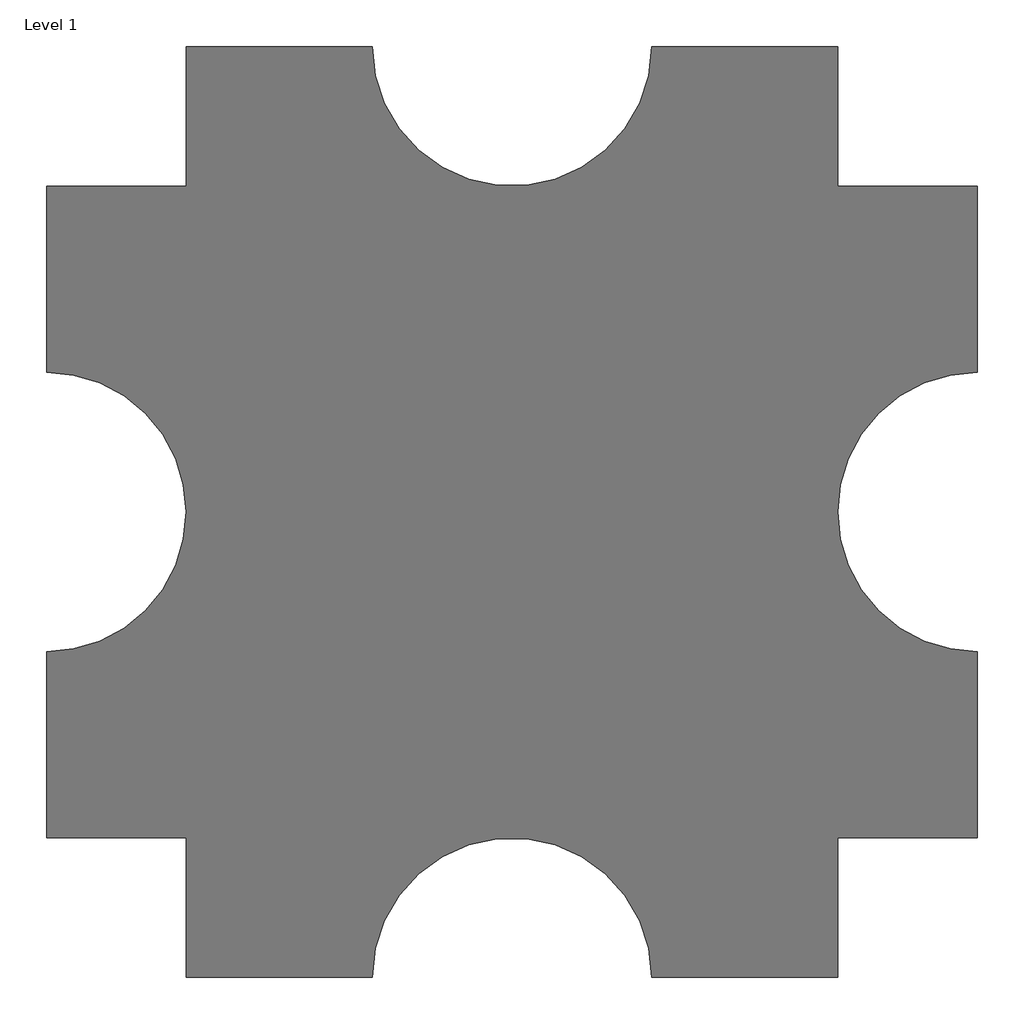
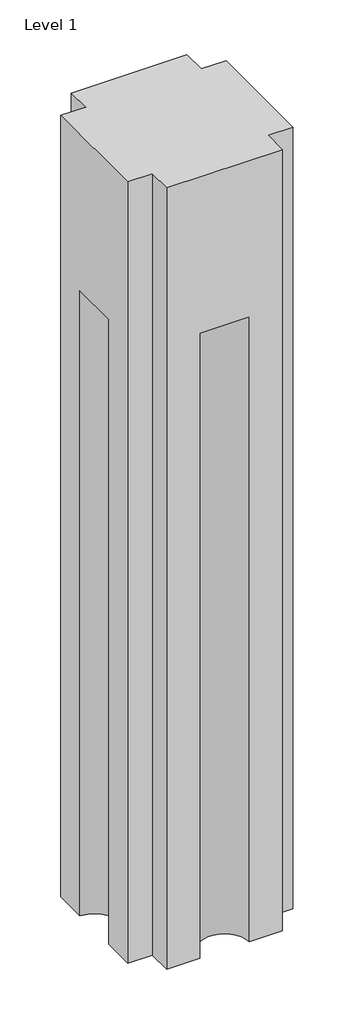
# One storey: 1 proxy.
"""IFC4 building model written with IfcOpenShell, lengths in millimetres."""

from ifc_helpers import new_model, si_unit, frame, origin, place, context, project, spatial, polyline, circle_curve, element, save
from ifc_brep_helpers import plane_surface, revolved_surface, advanced_brep

model = new_model("IFC4")

# Units and contexts
model_context = context("Model", 3, world=origin())
ifc_project = project(units=[si_unit("LENGTHUNIT", "METRE", prefix="MILLI")], contexts=[model_context])

# Site, building, storey
site = spatial("IfcSite", under=ifc_project)
building = spatial("IfcBuilding", under=site)
storey = spatial("IfcBuildingStorey", under=building, Name="Level 1", Elevation=0.0)

# Proxy
placement = place(None, origin())
element("IfcBuildingElementProxy", 1, Name="Mass 1 : Mass 1", ObjectType="Mass 1 : Mass 1", at=placement, inside=storey, context=model_context, shape_type="AdvancedBrep", body=[
    advanced_brep(
    [(-7150.3629456, 4479.6634547, 152400.0), (-11722.3629456, 4479.6634547, 152400.0), (-11722.3629456, -16856.3365453, 152400.0), (-7150.3629456, -16856.3365453, 152400.0), (-7150.3629456, -21428.3365453, 152400.0), (14185.6370544, -21428.3365453, 152400.0), (14185.6370544, -16856.3365453, 152400.0), (18757.6370544, -16856.3365453, 152400.0), (18757.6370544, 4479.6634547, 152400.0), (14185.6370544, 4479.6634547, 152400.0), (14185.6370544, 9051.6634547, 152400.0), (-7150.3629456, 9051.6634547, 152400.0), (-7150.3629456, 4479.6634547, 0.0), (-7150.3629456, 9051.6634547, 0.0), (-1054.3629456, 9051.6634547, 0.0), (8089.6370544, 9051.6634547, 0.0), (14185.6370544, 9051.6634547, 0.0), (14185.6370544, 4479.6634547, 0.0), (18757.6370544, 4479.6634547, 0.0), (18757.6370544, -1616.3365453, 0.0), (18757.6370544, -10760.3365453, 0.0), (18757.6370544, -16856.3365453, 0.0), (14185.6370544, -16856.3365453, 0.0), (14185.6370544, -21428.3365453, 0.0), (8089.6370544, -21428.3365453, 0.0), (-1054.3629456, -21428.3365453, 0.0), (-7150.3629456, -21428.3365453, 0.0), (-7150.3629456, -16856.3365453, 0.0), (-11722.3629456, -16856.3365453, 0.0), (-11722.3629456, -10760.3365453, 0.0), (-11722.3629456, -1616.3365453, 0.0), (-11722.3629456, 4479.6634547, 0.0), (-11722.3629456, -1616.3365453, 121920.0), (-11722.3629456, -10760.3365453, 121920.0), (-1054.3629456, -21428.3365453, 121920.0), (8089.6370544, -21428.3365453, 121920.0), (18757.6370544, -10760.3365453, 121920.0), (18757.6370544, -1616.3365453, 121920.0), (8089.6370544, 9051.6634547, 121920.0), (-1054.3629456, 9051.6634547, 121920.0)],
    [
        (0, 1),
        (1, 2),
        (2, 3),
        (3, 4),
        (4, 5),
        (5, 6),
        (6, 7),
        (7, 8),
        (8, 9),
        (9, 10),
        (10, 11),
        (11, 0),
        (12, 13),
        (13, 14),
        (14, 15, circle_curve(frame((3517.6370544, 9051.6634547, 0.0), z_axis=(0.0, 0.0, 1.0), x_axis=(0.0, 1.0, 0.0)), 4572.0)),
        (15, 16),
        (16, 17),
        (17, 18),
        (18, 19),
        (19, 20, circle_curve(frame((18757.6370544, -6188.3365453, 0.0), z_axis=(0.0, 0.0, 1.0), x_axis=(1.0, 0.0, 0.0)), 4572.0)),
        (20, 21),
        (21, 22),
        (22, 23),
        (23, 24),
        (24, 25, circle_curve(frame((3517.6370544, -21428.3365453, 0.0), z_axis=(0.0, 0.0, 1.0), x_axis=(0.0, -1.0, 0.0)), 4572.0)),
        (25, 26),
        (26, 27),
        (27, 28),
        (28, 29),
        (29, 30, circle_curve(frame((-11722.3629456, -6188.3365453, 0.0), z_axis=(0.0, 0.0, 1.0), x_axis=(-1.0, 0.0, 0.0)), 4572.0)),
        (30, 31),
        (31, 12),
        (0, 12),
        (31, 1),
        (30, 32),
        (32, 33),
        (33, 29),
        (28, 2),
        (27, 3),
        (26, 4),
        (25, 34),
        (34, 35),
        (35, 24),
        (23, 5),
        (22, 6),
        (21, 7),
        (20, 36),
        (36, 37),
        (37, 19),
        (18, 8),
        (17, 9),
        (16, 10),
        (15, 38),
        (38, 39),
        (39, 14),
        (13, 11),
        (36, 37, circle_curve(frame((18757.6370544, -6188.3365453, 121920.0), z_axis=(0.0, 0.0, -1.0), x_axis=(1.0, 0.0, 0.0)), 4572.0)),
        (34, 35, circle_curve(frame((3517.6370544, -21428.3365453, 121920.0), z_axis=(0.0, 0.0, -1.0), x_axis=(0.0, -1.0, 0.0)), 4572.0)),
        (38, 39, circle_curve(frame((3517.6370544, 9051.6634547, 121920.0), z_axis=(0.0, 0.0, -1.0), x_axis=(0.0, 1.0, 0.0)), 4572.0)),
        (32, 33, circle_curve(frame((-11722.3629456, -6188.3365453, 121920.0), z_axis=(0.0, 0.0, -1.0), x_axis=(-1.0, 0.0, 0.0)), 4572.0)),
    ],
    [
        plane_surface(frame((-11722.3629456, 4479.6634547, 152400.0), z_axis=(0.0, 0.0, 1.0), x_axis=(-1.0, 0.0, 0.0))),
        plane_surface(frame((-11722.3629456, 4479.6634547, 0.0), z_axis=(0.0, 0.0, -1.0), x_axis=(1.0, 0.0, 0.0))),
        plane_surface(frame((-7150.3629456, 4479.6634547, 152400.0), z_axis=(0.0, 1.0, 0.0), x_axis=(0.0, 0.0, -1.0))),
        plane_surface(frame((-11722.3629456, 4479.6634547, 152400.0), z_axis=(-1.0, 0.0, 0.0), x_axis=(0.0, 0.0, -1.0))),
        plane_surface(frame((-11722.3629456, -16856.3365453, 152400.0), z_axis=(0.0, -1.0, 0.0), x_axis=(0.0, 0.0, -1.0))),
        plane_surface(frame((-7150.3629456, -16856.3365453, 152400.0), z_axis=(-1.0, 0.0, 0.0), x_axis=(0.0, 0.0, -1.0))),
        plane_surface(frame((-7150.3629456, -21428.3365453, 152400.0), z_axis=(0.0, -1.0, 0.0), x_axis=(0.0, 0.0, -1.0))),
        plane_surface(frame((14185.6370544, -21428.3365453, 152400.0), z_axis=(1.0, 0.0, 0.0), x_axis=(0.0, 0.0, -1.0))),
        plane_surface(frame((14185.6370544, -16856.3365453, 152400.0), z_axis=(0.0, -1.0, 0.0), x_axis=(0.0, 0.0, -1.0))),
        plane_surface(frame((18757.6370544, -16856.3365453, 152400.0), z_axis=(1.0, 0.0, 0.0), x_axis=(0.0, 0.0, -1.0))),
        plane_surface(frame((18757.6370544, 4479.6634547, 152400.0), z_axis=(0.0, 1.0, 0.0), x_axis=(0.0, 0.0, -1.0))),
        plane_surface(frame((14185.6370544, 4479.6634547, 152400.0), z_axis=(1.0, 0.0, 0.0), x_axis=(0.0, 0.0, -1.0))),
        plane_surface(frame((14185.6370544, 9051.6634547, 152400.0), z_axis=(0.0, 1.0, 0.0), x_axis=(0.0, 0.0, -1.0))),
        plane_surface(frame((-7150.3629456, 9051.6634547, 152400.0), z_axis=(-1.0, 0.0, 0.0), x_axis=(0.0, 0.0, -1.0))),
        plane_surface(frame((18757.6370544, -10760.3365453, 121920.0), z_axis=(0.0, 0.0, -1.0), x_axis=(0.0, 1.0, 0.0))),
        revolved_surface(polyline([(23329.6370544, -6188.3365453, 121920.0), (23329.6370544, -6188.3365453, 0.0)]), (18757.6370544, -6188.3365453, 0.0), (0.0, 0.0, 1.0)),
        revolved_surface(polyline([(3517.6370544, -26000.3365453, 121920.0), (3517.6370544, -26000.3365453, 0.0)]), (3517.6370544, -21428.3365453, 0.0), (0.0, 0.0, 1.0)),
        revolved_surface(polyline([(3517.6370544, 13623.6634547, 121920.0), (3517.6370544, 13623.6634547, 0.0)]), (3517.6370544, 9051.6634547, 0.0), (0.0, 0.0, 1.0)),
        revolved_surface(polyline([(-16294.3629456, -6188.3365453, 121920.0), (-16294.3629456, -6188.3365453, 0.0)]), (-11722.3629456, -6188.3365453, 0.0), (0.0, 0.0, 1.0)),
    ],
    [
        (0, [[1, 2, 3, 4, 5, 6, 7, 8, 9, 10, 11, 12]]),
        (1, [[13, 14, 15, 16, 17, 18, 19, 20, 21, 22, 23, 24, 25, 26, 27, 28, 29, 30, 31, 32]]),
        (2, [[-1, 33, -32, 34]]),
        (3, [[-2, -34, -31, 35, 36, 37, -29, 38]]),
        (4, [[-3, -38, -28, 39]]),
        (5, [[-4, -39, -27, 40]]),
        (6, [[-5, -40, -26, 41, 42, 43, -24, 44]]),
        (7, [[-6, -44, -23, 45]]),
        (8, [[-7, -45, -22, 46]]),
        (9, [[-8, -46, -21, 47, 48, 49, -19, 50]]),
        (10, [[-9, -50, -18, 51]]),
        (11, [[-10, -51, -17, 52]]),
        (12, [[-11, -52, -16, 53, 54, 55, -14, 56]]),
        (13, [[-12, -56, -13, -33]]),
        (14, [[57, -48]]),
        (14, [[58, -42]]),
        (14, [[59, -54]]),
        (14, [[60, -36]]),
        (15, [[-57, -47, -20, -49]]),
        (16, [[-58, -41, -25, -43]]),
        (17, [[-59, -53, -15, -55]]),
        (18, [[-60, -35, -30, -37]]),
    ],
),
])

save(model, "model.ifc")
